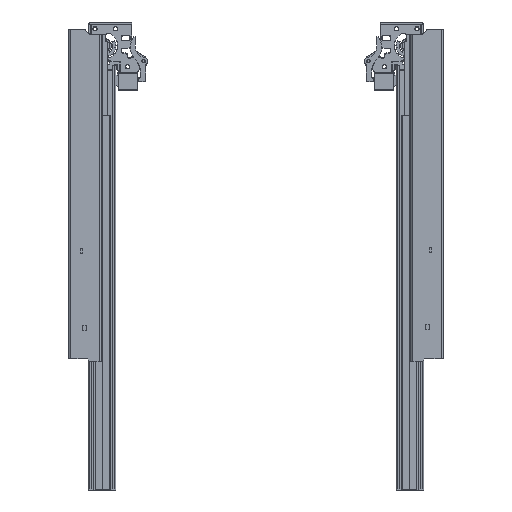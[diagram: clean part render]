
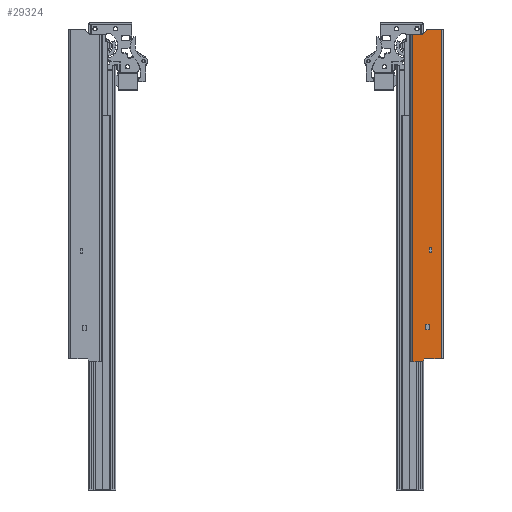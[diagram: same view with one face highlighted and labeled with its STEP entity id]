
A CAD part, front view. The second image highlights one B-rep face of the part: STEP entity #29324.
In plain terms, the highlighted planar face has unit normal (0, -1, 0).
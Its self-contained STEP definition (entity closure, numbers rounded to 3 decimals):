
#901=FACE_BOUND('',#6163,.T.);
#902=FACE_BOUND('',#6164,.T.);
#2033=CIRCLE('',#31353,2.);
#2034=CIRCLE('',#31354,2.);
#4194=FACE_OUTER_BOUND('',#6162,.T.);
#6162=EDGE_LOOP('',(#19169,#19170,#19171,#19172,#19173,#19174,#19175,#19176,
#19177,#19178));
#6163=EDGE_LOOP('',(#19179,#19180,#19181,#19182));
#6164=EDGE_LOOP('',(#19183,#19184,#19185,#19186));
#8260=LINE('',#45685,#10180);
#8264=LINE('',#45693,#10184);
#8267=LINE('',#45699,#10187);
#8270=LINE('',#45704,#10190);
#8272=LINE('',#45710,#10192);
#8276=LINE('',#45718,#10196);
#8279=LINE('',#45724,#10199);
#8282=LINE('',#45729,#10202);
#8284=LINE('',#45735,#10204);
#8289=LINE('',#45749,#10209);
#8307=LINE('',#45804,#10227);
#8308=LINE('',#45807,#10228);
#8309=LINE('',#45811,#10229);
#8310=LINE('',#45815,#10230);
#8311=LINE('',#45817,#10231);
#8312=LINE('',#45818,#10232);
#10180=VECTOR('',#35737,5.);
#10184=VECTOR('',#35743,3.);
#10187=VECTOR('',#35748,5.);
#10190=VECTOR('',#35753,3.);
#10192=VECTOR('',#35759,6.);
#10196=VECTOR('',#35765,3.5);
#10199=VECTOR('',#35770,6.);
#10202=VECTOR('',#35775,3.5);
#10204=VECTOR('',#35781,4.243);
#10209=VECTOR('',#35792,18.);
#10227=VECTOR('',#35838,352.);
#10228=VECTOR('',#35841,14.172);
#10229=VECTOR('',#35844,5.414);
#10230=VECTOR('',#35847,9.672);
#10231=VECTOR('',#35848,350.);
#10232=VECTOR('',#35849,9.5);
#12151=VERTEX_POINT('',#45683);
#12152=VERTEX_POINT('',#45684);
#12155=VERTEX_POINT('',#45692);
#12157=VERTEX_POINT('',#45698);
#12159=VERTEX_POINT('',#45708);
#12160=VERTEX_POINT('',#45709);
#12163=VERTEX_POINT('',#45717);
#12165=VERTEX_POINT('',#45723);
#12167=VERTEX_POINT('',#45733);
#12168=VERTEX_POINT('',#45734);
#12174=VERTEX_POINT('',#45747);
#12197=VERTEX_POINT('',#45802);
#12198=VERTEX_POINT('',#45806);
#12199=VERTEX_POINT('',#45808);
#12200=VERTEX_POINT('',#45810);
#12201=VERTEX_POINT('',#45812);
#12202=VERTEX_POINT('',#45814);
#12203=VERTEX_POINT('',#45816);
#14670=EDGE_CURVE('',#12151,#12152,#8260,.T.);
#14674=EDGE_CURVE('',#12152,#12155,#8264,.T.);
#14677=EDGE_CURVE('',#12155,#12157,#8267,.T.);
#14680=EDGE_CURVE('',#12157,#12151,#8270,.T.);
#14682=EDGE_CURVE('',#12159,#12160,#8272,.T.);
#14686=EDGE_CURVE('',#12160,#12163,#8276,.T.);
#14689=EDGE_CURVE('',#12163,#12165,#8279,.T.);
#14692=EDGE_CURVE('',#12165,#12159,#8282,.T.);
#14694=EDGE_CURVE('',#12167,#12168,#8284,.T.);
#14701=EDGE_CURVE('',#12174,#12167,#8289,.T.);
#14729=EDGE_CURVE('',#12197,#12174,#8307,.T.);
#14730=EDGE_CURVE('',#12197,#12198,#8308,.T.);
#14731=EDGE_CURVE('',#12198,#12199,#2033,.T.);
#14732=EDGE_CURVE('',#12200,#12199,#8309,.T.);
#14733=EDGE_CURVE('',#12200,#12201,#2034,.T.);
#14734=EDGE_CURVE('',#12202,#12201,#8310,.T.);
#14735=EDGE_CURVE('',#12202,#12203,#8311,.T.);
#14736=EDGE_CURVE('',#12203,#12168,#8312,.T.);
#19169=ORIENTED_EDGE('',*,*,#14701,.F.);
#19170=ORIENTED_EDGE('',*,*,#14729,.F.);
#19171=ORIENTED_EDGE('',*,*,#14730,.T.);
#19172=ORIENTED_EDGE('',*,*,#14731,.T.);
#19173=ORIENTED_EDGE('',*,*,#14732,.F.);
#19174=ORIENTED_EDGE('',*,*,#14733,.T.);
#19175=ORIENTED_EDGE('',*,*,#14734,.F.);
#19176=ORIENTED_EDGE('',*,*,#14735,.T.);
#19177=ORIENTED_EDGE('',*,*,#14736,.T.);
#19178=ORIENTED_EDGE('',*,*,#14694,.F.);
#19179=ORIENTED_EDGE('',*,*,#14670,.T.);
#19180=ORIENTED_EDGE('',*,*,#14674,.T.);
#19181=ORIENTED_EDGE('',*,*,#14677,.T.);
#19182=ORIENTED_EDGE('',*,*,#14680,.T.);
#19183=ORIENTED_EDGE('',*,*,#14682,.T.);
#19184=ORIENTED_EDGE('',*,*,#14686,.T.);
#19185=ORIENTED_EDGE('',*,*,#14689,.T.);
#19186=ORIENTED_EDGE('',*,*,#14692,.T.);
#26933=PLANE('',#31352);
#29324=ADVANCED_FACE('',(#4194,#901,#902),#26933,.F.);
#31352=AXIS2_PLACEMENT_3D('',#45805,#35839,#35840);
#31353=AXIS2_PLACEMENT_3D('',#45809,#35842,#35843);
#31354=AXIS2_PLACEMENT_3D('',#45813,#35845,#35846);
#35737=DIRECTION('',(0.,0.,1.));
#35743=DIRECTION('',(1.,0.,0.));
#35748=DIRECTION('',(0.,0.,-1.));
#35753=DIRECTION('',(-1.,0.,0.));
#35759=DIRECTION('',(0.,0.,1.));
#35765=DIRECTION('',(1.,0.,0.));
#35770=DIRECTION('',(0.,0.,-1.));
#35775=DIRECTION('',(-1.,0.,0.));
#35781=DIRECTION('',(-0.707,0.,-0.707));
#35792=DIRECTION('',(-1.,0.,0.));
#35838=DIRECTION('',(0.,0.,-1.));
#35839=DIRECTION('center_axis',(0.,1.,0.));
#35840=DIRECTION('ref_axis',(1.,0.,0.));
#35841=DIRECTION('',(-1.,0.,0.));
#35842=DIRECTION('center_axis',(0.,-1.,0.));
#35843=DIRECTION('ref_axis',(-0.383,0.,0.924));
#35844=DIRECTION('',(0.707,0.,0.707));
#35845=DIRECTION('center_axis',(0.,1.,0.));
#35846=DIRECTION('ref_axis',(0.383,0.,-0.924));
#35847=DIRECTION('',(1.,0.,0.));
#35848=DIRECTION('',(0.,0.,-1.));
#35849=DIRECTION('',(1.,0.,0.));
#45683=CARTESIAN_POINT('',(-15.,0.,-238.));
#45684=CARTESIAN_POINT('',(-15.,0.,-233.));
#45685=CARTESIAN_POINT('',(-15.,0.,-116.5));
#45692=CARTESIAN_POINT('',(-12.,0.,-233.));
#45693=CARTESIAN_POINT('',(-22.25,0.,-233.));
#45698=CARTESIAN_POINT('',(-12.,0.,-238.));
#45699=CARTESIAN_POINT('',(-12.,0.,-119.));
#45704=CARTESIAN_POINT('',(-23.75,0.,-238.));
#45708=CARTESIAN_POINT('',(-18.5,0.,-321.));
#45709=CARTESIAN_POINT('',(-18.5,0.,-315.));
#45710=CARTESIAN_POINT('',(-18.5,0.,-157.5));
#45717=CARTESIAN_POINT('',(-15.,0.,-315.));
#45718=CARTESIAN_POINT('',(-23.75,0.,-315.));
#45723=CARTESIAN_POINT('',(-15.,0.,-321.));
#45724=CARTESIAN_POINT('',(-15.,0.,-160.5));
#45729=CARTESIAN_POINT('',(-25.5,0.,-321.));
#45733=CARTESIAN_POINT('',(-20.,0.,-352.));
#45734=CARTESIAN_POINT('',(-23.,0.,-355.));
#45735=CARTESIAN_POINT('',(64.875,0.,-267.125));
#45747=CARTESIAN_POINT('',(-2.,0.,-352.));
#45749=CARTESIAN_POINT('',(-16.25,0.,-352.));
#45802=CARTESIAN_POINT('',(-2.,0.,0.));
#45804=CARTESIAN_POINT('',(-2.,0.,0.));
#45805=CARTESIAN_POINT('Origin',(-32.5,0.,0.));
#45806=CARTESIAN_POINT('',(-16.172,0.,0.));
#45807=CARTESIAN_POINT('',(-2.,0.,0.));
#45808=CARTESIAN_POINT('',(-17.586,0.,-0.586));
#45809=CARTESIAN_POINT('Origin',(-16.172,0.,
-2.));
#45810=CARTESIAN_POINT('',(-21.414,0.,-4.414));
#45811=CARTESIAN_POINT('',(-23.375,0.,-6.375));
#45812=CARTESIAN_POINT('',(-22.828,0.,-5.));
#45813=CARTESIAN_POINT('Origin',(-22.828,0.,
-3.));
#45814=CARTESIAN_POINT('',(-32.5,0.,-5.));
#45815=CARTESIAN_POINT('',(-35.75,0.,-5.));
#45816=CARTESIAN_POINT('',(-32.5,0.,-355.));
#45817=CARTESIAN_POINT('',(-32.5,0.,0.));
#45818=CARTESIAN_POINT('',(-2.,0.,-355.));
